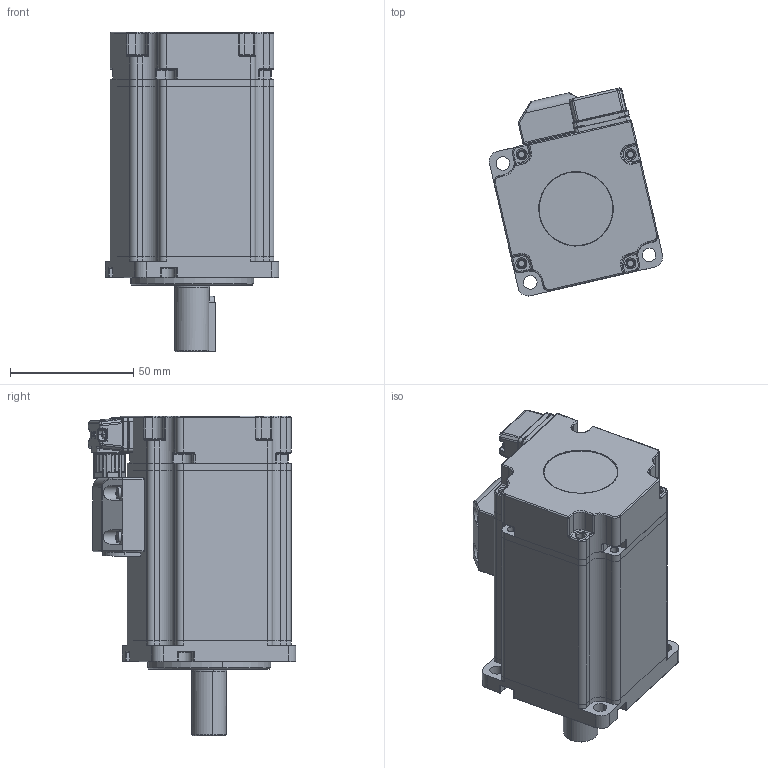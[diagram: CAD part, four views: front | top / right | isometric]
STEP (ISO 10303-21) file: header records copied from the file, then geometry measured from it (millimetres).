
FILE_DESCRIPTION (( 'STEP AP214' ), '1' );
FILE_NAME ('400W低压电机 不带刹车（插座式）.STEP', '2023-07-03T02:12:32', ( '' ), ( '' ), 'SwSTEP 2.0', 'SolidWorks 2014', '' );
FILE_SCHEMA (( 'AUTOMOTIVE_DESIGN' ));
Length unit declared in the file: millimetre
Products named in the file (15): 普通型 平键   C 5x5x22.5 带M3起键螺钉孔; 蚐猾 D00B999YF2-TC 15-22-5_1; 60-10-26-8粣創_1; 60#粣 棠晤-饜38-腴揤_23弇_1; SC40陔晤鎢ん瑤脣釱sc-mc7p-a6-zhichuxianchazuo; ヶ傷裔_60價釱-201126_1; 60- 15-32-9粣創_1; SC40陔晤鎢ん瑤脣芛sc-mc7s-a6-zhixianchatou; 400W低压电机 不带刹车（插座式）; 綴傷裔_60價釱-201126_1; GB_CROSS_SCREWS_TYPE3 M2.5X12-12-C_GB_CROSS_SCREWS_TYPE3 M2.5X12-12-C_1_1; 400W儂褲-腴揤_1; 低压电机动力压线盖_1_1; 60陔晤鎢ん綴欶-201126; 揤盄裔躇猾菜 - 8.5
Assembly tree (17 placements, depth 2):
  400W低压电机 不带刹车（插座式）
    低压电机动力压线盖_1_1
    400W儂褲-腴揤_1
    GB_CROSS_SCREWS_TYPE3 M2.5X12-12-C_GB_CROSS_SCREWS_TYPE3 M2.5X12-12-C_1_1  x4
    綴傷裔_60價釱-201126_1
    ヶ傷裔_60價釱-201126_1
    60-10-26-8粣創_1
    60- 15-32-9粣創_1
    60#粣 棠晤-饜38-腴揤_23弇_1
    揤盄裔躇猾菜 - 8.5
    60陔晤鎢ん綴欶-201126
    蚐猾 D00B999YF2-TC 15-22-5_1
    SC40陔晤鎢ん瑤脣釱sc-mc7p-a6-zhichuxianchazuo
    普通型 平键   C 5x5x22.5 带M3起键螺钉孔
    SC40陔晤鎢ん瑤脣芛sc-mc7s-a6-zhixianchatou
Bounding box: 70.34 x 84.17 x 129.5 mm (x, y, z)
Volume: 146283.7 mm3; surface area: 95201.3 mm2
Topology: 26 solids, 26 shells, 4257 faces, 11310 edges, 6934 vertices
Faces by surface type: plane 1783, cylinder 1389, bspline 592, torus 243, cone 167, sphere 83
Entity records: 206171 total; most frequent: CARTESIAN_POINT 62037, ORIENTED_EDGE 21798, DIRECTION 18558, EDGE_CURVE 10899, VERTEX_POINT 6806, AXIS2_PLACEMENT_3D 6404, LINE 5750, VECTOR 5750
